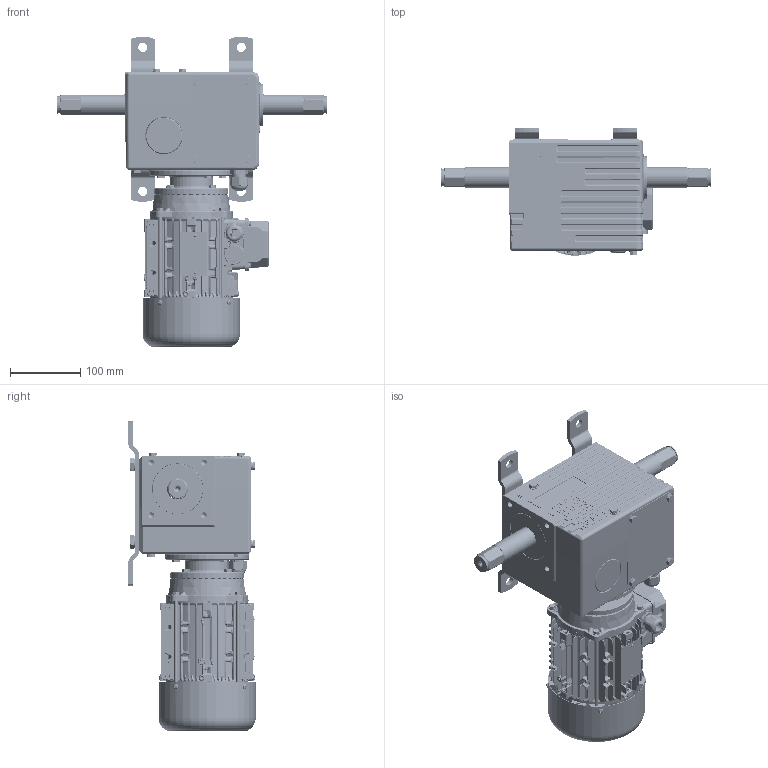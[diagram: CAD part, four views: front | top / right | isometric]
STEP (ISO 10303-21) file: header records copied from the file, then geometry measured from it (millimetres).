
FILE_DESCRIPTION (( 'STEP AP214' ), '1' );
FILE_NAME ('010205862_EWA_12_3D__DE_12212.2509.66.STEP', '2022-09-28T11:44:15', ( '' ), ( '' ), 'SwSTEP 2.0', 'SolidWorks 2022', '' );
FILE_SCHEMA (( 'AUTOMOTIVE_DESIGN' ));
Length unit declared in the file: millimetre
Products named in the file (25): 010200543_EWA_12_3D__DE; Montageplatte_10000170; 010205862_EWA_12_3D__DE_12212.2509.66; Schraube_10028710; Schraube_10014320; Dichtelement_10005476; Schraube_10018291; Deckel_10000048; 010200547_EWA_12_3D__DE_Ohne Inhalt; Elektroteil_10028709; Dichtelement_10032469; 010205863_EWA_12_3D__DE_ohne Inhalt; 010191515_Normteil_Kaufteil_3D-Modell_DE_10191515; Kennzeichnung_10001854; Dichtelement_10001203; Elektroteil_10001639; Schraube_10002078; 010192906_EWA_12_3D-Modell_DE_10192906_END 20-90000.0002.6290 m.SB; 010202653__3D__DE_84102.0055.PM01; Wälzlager_10001868; 010194291_EWA_12_3D-Modell_DE_10194291; Verbindungselement_10057233; Elektroteil_10001640; Scheibe_10002061; 010198258_EWA_3D-Modell_DE_10198258
Assembly tree (47 placements, depth 3):
  010205862_EWA_12_3D__DE_12212.2509.66
    010205863_EWA_12_3D__DE_ohne Inhalt
      010192906_EWA_12_3D-Modell_DE_10192906_END 20-90000.0002.6290 m.SB
      Elektroteil_10001640
      Montageplatte_10000170  x2
      Schraube_10028710  x4
      Dichtelement_10005476
      Dichtelement_10032469
      Elektroteil_10001639
      Elektroteil_10028709
      Deckel_10000048
      Scheibe_10002061  x8
      010191515_Normteil_Kaufteil_3D-Modell_DE_10191515  x4
      Wälzlager_10001868
      Schraube_10018291  x4
      010194291_EWA_12_3D-Modell_DE_10194291
      Dichtelement_10001203
    Schraube_10014320
    Schraube_10002078  x4
    Kennzeichnung_10001854
    010200547_EWA_12_3D__DE_Ohne Inhalt
      010200543_EWA_12_3D__DE
      010198258_EWA_3D-Modell_DE_10198258
      Schraube_10002078  x4
    010202653__3D__DE_84102.0055.PM01
  Verbindungselement_10057233
Bounding box: 385 x 181.05 x 441.62 mm (x, y, z)
Volume: 2048329.8 mm3; surface area: 971447.2 mm2
Topology: 93 solids, 97 shells, 12293 faces, 29626 edges, 17338 vertices
Faces by surface type: cylinder 3431, bspline 3340, plane 2887, torus 1009, cone 861, sphere 765
Entity records: 757988 total; most frequent: CARTESIAN_POINT 409370, ORIENTED_EDGE 55952, DIRECTION 41221, EDGE_CURVE 27976, VERTEX_POINT 16574, AXIS2_PLACEMENT_3D 15836, EDGE_LOOP 12342, FACE_OUTER_BOUND 11778
